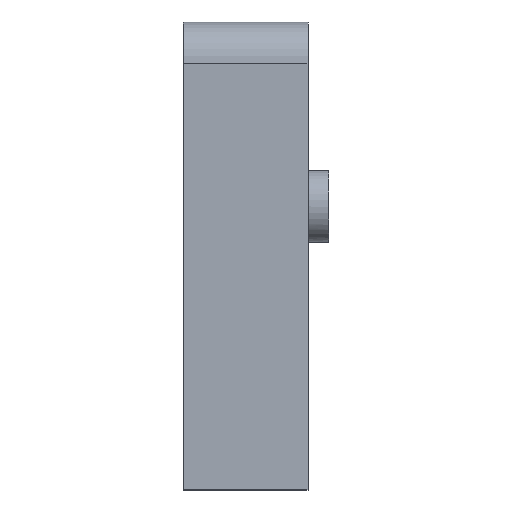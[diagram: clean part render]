
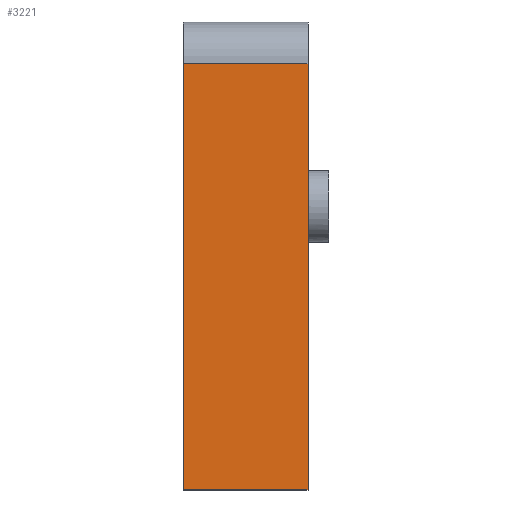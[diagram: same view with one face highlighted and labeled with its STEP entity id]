
A CAD part, left-side view. The second image highlights one B-rep face of the part: STEP entity #3221.
In plain terms, the highlighted planar face has unit normal (-1, 0, 0).
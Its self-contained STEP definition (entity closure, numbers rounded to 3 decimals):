
#42 = VERTEX_POINT ( 'NONE', #2333 ) ;
#169 = CARTESIAN_POINT ( 'NONE',  ( -300., -0.5, -225. ) ) ;
#477 = AXIS2_PLACEMENT_3D ( 'NONE', #6817, #1044, #7780 ) ;
#724 = CARTESIAN_POINT ( 'NONE',  ( -300., -120., 185. ) ) ;
#1044 = DIRECTION ( 'NONE',  ( -1., 0., 0. ) ) ;
#1063 = EDGE_LOOP ( 'NONE', ( #1857, #6612, #10037, #1732 ) ) ;
#1352 = VECTOR ( 'NONE', #12117, 1000. ) ;
#1732 = ORIENTED_EDGE ( 'NONE', *, *, #10535, .T. ) ;
#1857 = ORIENTED_EDGE ( 'NONE', *, *, #10231, .T. ) ;
#1972 = EDGE_CURVE ( 'NONE', #42, #7324, #2260, .T. ) ;
#2043 = LINE ( 'NONE', #724, #9455 ) ;
#2260 = LINE ( 'NONE', #11139, #1352 ) ;
#2333 = CARTESIAN_POINT ( 'NONE',  ( -300., -0.5, 185. ) ) ;
#3221 = ADVANCED_FACE ( 'NONE', ( #5522 ), #10658, .T. ) ;
#3224 = CARTESIAN_POINT ( 'NONE',  ( -300., -120., -225. ) ) ;
#5522 = FACE_OUTER_BOUND ( 'NONE', #1063, .T. ) ;
#5665 = LINE ( 'NONE', #3224, #7918 ) ;
#6276 = EDGE_CURVE ( 'NONE', #10541, #7324, #8188, .T. ) ;
#6612 = ORIENTED_EDGE ( 'NONE', *, *, #1972, .T. ) ;
#6817 = CARTESIAN_POINT ( 'NONE',  ( -300., -120., -225. ) ) ;
#7324 = VERTEX_POINT ( 'NONE', #169 ) ;
#7461 = DIRECTION ( 'NONE',  ( 0., 1., 0. ) ) ;
#7633 = VERTEX_POINT ( 'NONE', #12270 ) ;
#7780 = DIRECTION ( 'NONE',  ( 0., 0., 1. ) ) ;
#7918 = VECTOR ( 'NONE', #8996, 1000. ) ;
#8188 = LINE ( 'NONE', #10246, #8789 ) ;
#8789 = VECTOR ( 'NONE', #9289, 1000. ) ;
#8996 = DIRECTION ( 'NONE',  ( 0., 0., 1. ) ) ;
#9289 = DIRECTION ( 'NONE',  ( 0., 1., 0. ) ) ;
#9455 = VECTOR ( 'NONE', #7461, 1000. ) ;
#9964 = CARTESIAN_POINT ( 'NONE',  ( -300., -120., -225. ) ) ;
#10037 = ORIENTED_EDGE ( 'NONE', *, *, #6276, .F. ) ;
#10231 = EDGE_CURVE ( 'NONE', #7633, #42, #2043, .T. ) ;
#10246 = CARTESIAN_POINT ( 'NONE',  ( -300., -120., -225. ) ) ;
#10535 = EDGE_CURVE ( 'NONE', #10541, #7633, #5665, .T. ) ;
#10541 = VERTEX_POINT ( 'NONE', #9964 ) ;
#10658 = PLANE ( 'NONE',  #477 ) ;
#11139 = CARTESIAN_POINT ( 'NONE',  ( -300., -0.5, -225. ) ) ;
#12117 = DIRECTION ( 'NONE',  ( 0., 0., -1. ) ) ;
#12270 = CARTESIAN_POINT ( 'NONE',  ( -300., -120., 185. ) ) ;
